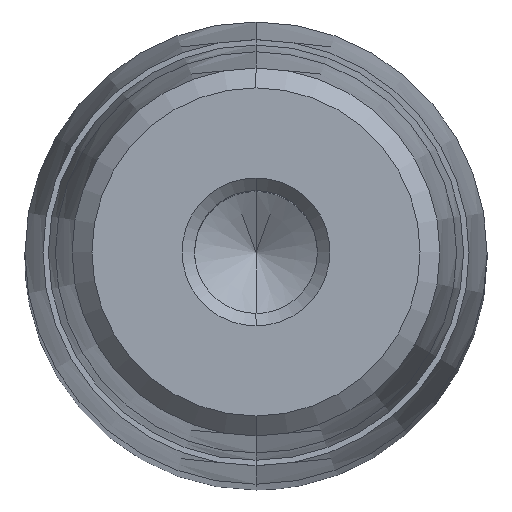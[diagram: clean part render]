
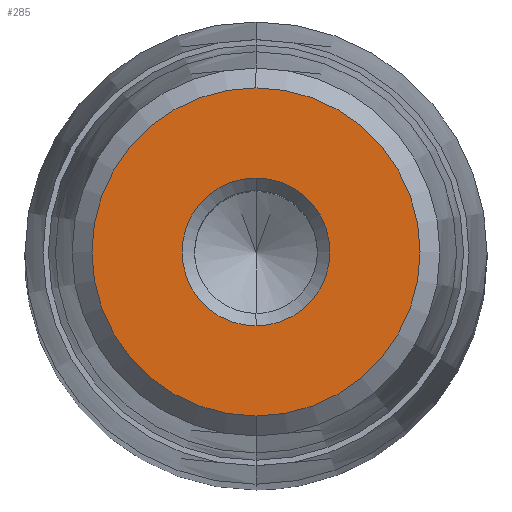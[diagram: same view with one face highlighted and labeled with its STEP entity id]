
A CAD part, top view. The second image highlights one B-rep face of the part: STEP entity #285.
In plain terms, the highlighted planar face has unit normal (0, 0, 1).
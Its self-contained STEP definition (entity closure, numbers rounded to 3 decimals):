
#164=CARTESIAN_POINT('Axis2P3D Location',(0.,0.,35.)) ;
#168=CARTESIAN_POINT('Vertex',(4.,0.,35.)) ;
#170=CARTESIAN_POINT('Vertex',(0.,-4.,35.)) ;
#173=CARTESIAN_POINT('Axis2P3D Location',(0.,0.,35.)) ;
#177=CARTESIAN_POINT('Vertex',(0.,4.,35.)) ;
#228=CARTESIAN_POINT('Axis2P3D Location',(0.,4.,35.)) ;
#233=CARTESIAN_POINT('Axis2P3D Location',(0.,0.,35.)) ;
#237=CARTESIAN_POINT('Vertex',(0.,8.875,35.)) ;
#239=CARTESIAN_POINT('Vertex',(8.875,0.,35.)) ;
#242=CARTESIAN_POINT('Axis2P3D Location',(0.,0.,35.)) ;
#246=CARTESIAN_POINT('Vertex',(-8.875,0.,35.)) ;
#249=CARTESIAN_POINT('Axis2P3D Location',(0.,0.,35.)) ;
#253=CARTESIAN_POINT('Vertex',(0.,-8.875,35.)) ;
#256=CARTESIAN_POINT('Axis2P3D Location',(0.,0.,35.)) ;
#267=CARTESIAN_POINT('Axis2P3D Location',(0.,0.,35.)) ;
#271=CARTESIAN_POINT('Vertex',(-4.,0.,35.)) ;
#274=CARTESIAN_POINT('Axis2P3D Location',(0.,0.,35.)) ;
#165=DIRECTION('Axis2P3D Direction',(-0.,0.,1.)) ;
#174=DIRECTION('Axis2P3D Direction',(-0.,0.,1.)) ;
#229=DIRECTION('Axis2P3D Direction',(0.,0.,-1.)) ;
#230=DIRECTION('Axis2P3D XDirection',(0.,1.,0.)) ;
#234=DIRECTION('Axis2P3D Direction',(0.,0.,-1.)) ;
#243=DIRECTION('Axis2P3D Direction',(0.,0.,-1.)) ;
#250=DIRECTION('Axis2P3D Direction',(0.,0.,-1.)) ;
#257=DIRECTION('Axis2P3D Direction',(0.,0.,-1.)) ;
#268=DIRECTION('Axis2P3D Direction',(0.,0.,-1.)) ;
#275=DIRECTION('Axis2P3D Direction',(0.,0.,-1.)) ;
#166=AXIS2_PLACEMENT_3D('Circle Axis2P3D',#164,#165,$) ;
#175=AXIS2_PLACEMENT_3D('Circle Axis2P3D',#173,#174,$) ;
#231=AXIS2_PLACEMENT_3D('Plane Axis2P3D',#228,#229,#230) ;
#235=AXIS2_PLACEMENT_3D('Circle Axis2P3D',#233,#234,$) ;
#244=AXIS2_PLACEMENT_3D('Circle Axis2P3D',#242,#243,$) ;
#251=AXIS2_PLACEMENT_3D('Circle Axis2P3D',#249,#250,$) ;
#258=AXIS2_PLACEMENT_3D('Circle Axis2P3D',#256,#257,$) ;
#269=AXIS2_PLACEMENT_3D('Circle Axis2P3D',#267,#268,$) ;
#276=AXIS2_PLACEMENT_3D('Circle Axis2P3D',#274,#275,$) ;
#262=ORIENTED_EDGE('',*,*,#241,.F.) ;
#263=ORIENTED_EDGE('',*,*,#248,.F.) ;
#264=ORIENTED_EDGE('',*,*,#255,.F.) ;
#265=ORIENTED_EDGE('',*,*,#260,.F.) ;
#280=ORIENTED_EDGE('',*,*,#172,.T.) ;
#281=ORIENTED_EDGE('',*,*,#273,.T.) ;
#282=ORIENTED_EDGE('',*,*,#278,.T.) ;
#283=ORIENTED_EDGE('',*,*,#179,.T.) ;
#284=FACE_BOUND('',#279,.T.) ;
#285=ADVANCED_FACE('722-25x200x223',(#266,#284),#232,.F.) ;
#167=CIRCLE('generated circle',#166,4.) ;
#176=CIRCLE('generated circle',#175,4.) ;
#236=CIRCLE('generated circle',#235,8.875) ;
#245=CIRCLE('generated circle',#244,8.875) ;
#252=CIRCLE('generated circle',#251,8.875) ;
#259=CIRCLE('generated circle',#258,8.875) ;
#270=CIRCLE('generated circle',#269,4.) ;
#277=CIRCLE('generated circle',#276,4.) ;
#172=EDGE_CURVE('',#169,#171,#167,.F.) ;
#179=EDGE_CURVE('',#178,#169,#176,.F.) ;
#241=EDGE_CURVE('',#238,#240,#236,.T.) ;
#248=EDGE_CURVE('',#247,#238,#245,.T.) ;
#255=EDGE_CURVE('',#254,#247,#252,.T.) ;
#260=EDGE_CURVE('',#240,#254,#259,.T.) ;
#273=EDGE_CURVE('',#171,#272,#270,.T.) ;
#278=EDGE_CURVE('',#272,#178,#277,.T.) ;
#261=EDGE_LOOP('',(#262,#263,#264,#265)) ;
#279=EDGE_LOOP('',(#280,#281,#282,#283)) ;
#266=FACE_OUTER_BOUND('',#261,.T.) ;
#232=PLANE('Plane',#231) ;
#169=VERTEX_POINT('',#168) ;
#171=VERTEX_POINT('',#170) ;
#178=VERTEX_POINT('',#177) ;
#238=VERTEX_POINT('',#237) ;
#240=VERTEX_POINT('',#239) ;
#247=VERTEX_POINT('',#246) ;
#254=VERTEX_POINT('',#253) ;
#272=VERTEX_POINT('',#271) ;
